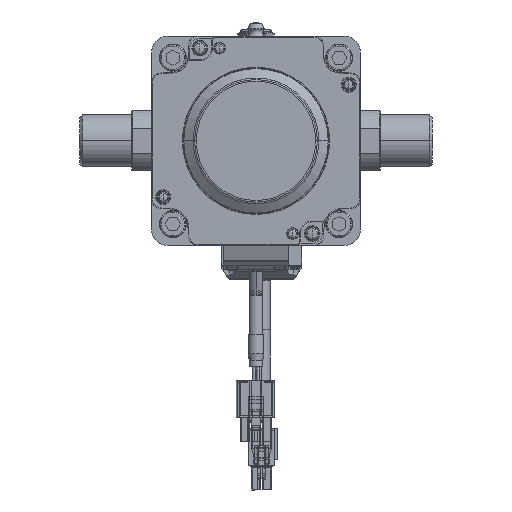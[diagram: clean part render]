
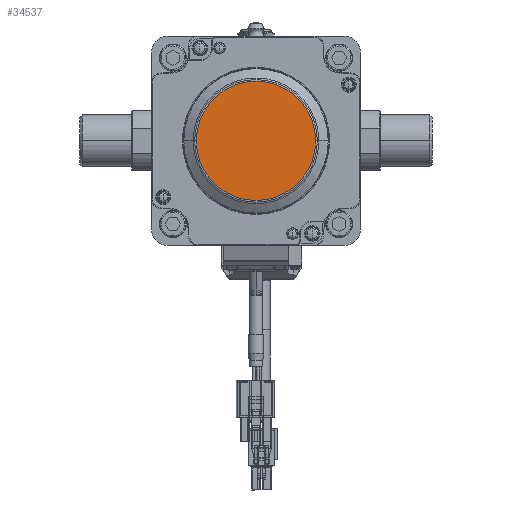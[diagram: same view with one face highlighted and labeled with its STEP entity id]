
A CAD part, front view. The second image highlights one B-rep face of the part: STEP entity #34537.
In plain terms, the highlighted planar face has unit normal (0, -1, 0) as drawn and (-1, 0, 0) by its records, which use the part's own axes.
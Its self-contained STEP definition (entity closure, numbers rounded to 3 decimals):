
#27518=CARTESIAN_POINT('',(-91.9,0.,0.));
#27519=DIRECTION('',(-1.,0.,0.));
#27520=DIRECTION('',(0.,0.,-1.));
#27521=AXIS2_PLACEMENT_3D('',#27518,#27519,#27520);
#27523=CARTESIAN_POINT('',(-91.9,0.,0.));
#27524=DIRECTION('',(-1.,0.,0.));
#27525=DIRECTION('',(0.,0.,1.));
#27526=AXIS2_PLACEMENT_3D('',#27523,#27524,#27525);
#29350=CARTESIAN_POINT('',(-91.9,0.,-22.84));
#29352=VERTEX_POINT('',#29350);
#29356=CARTESIAN_POINT('',(-91.9,0.,22.84));
#29357=VERTEX_POINT('',#29356);
#34527=CARTESIAN_POINT('',(-91.9,-22.,36.));
#34528=DIRECTION('',(1.,0.,0.));
#34529=DIRECTION('',(0.,0.,-1.));
#34530=AXIS2_PLACEMENT_3D('',#34527,#34528,#34529);
#34531=PLANE('',#34530);
#34532=ORIENTED_EDGE('',*,*,#34517,.F.);
#34534=ORIENTED_EDGE('',*,*,#34533,.F.);
#34535=EDGE_LOOP('',(#34532,#34534));
#34536=FACE_OUTER_BOUND('',#34535,.F.);
#34537=ADVANCED_FACE('',(#34536),#34531,.F.);
#27522=CIRCLE('',#27521,22.84);
#27527=CIRCLE('',#27526,22.84);
#34517=EDGE_CURVE('',#29352,#29357,#27522,.T.);
#34533=EDGE_CURVE('',#29357,#29352,#27527,.T.);
